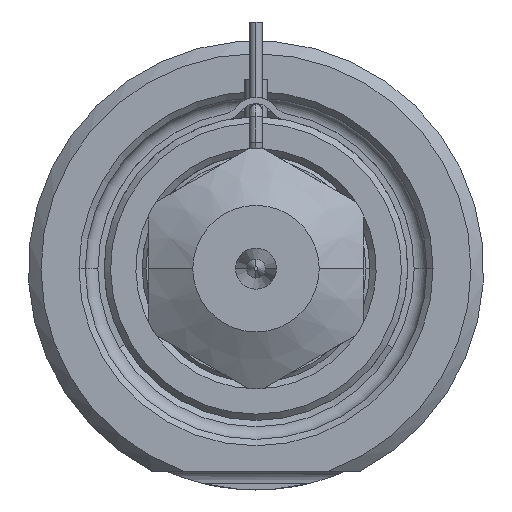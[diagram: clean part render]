
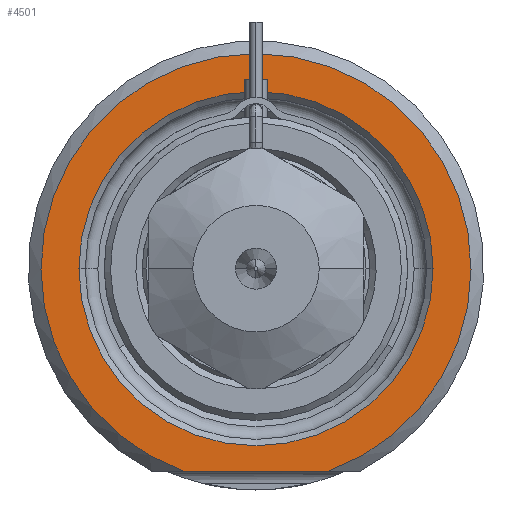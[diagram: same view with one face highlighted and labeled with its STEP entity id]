
A CAD part, front view. The second image highlights one B-rep face of the part: STEP entity #4501.
In plain terms, the highlighted planar face has unit normal (0, -1, 0).
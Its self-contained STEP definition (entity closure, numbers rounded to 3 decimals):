
#746=CARTESIAN_POINT('',(0.,0.,0.));
#747=DIRECTION('',(0.,-1.,0.));
#748=DIRECTION('',(0.338,0.,-0.941));
#749=AXIS2_PLACEMENT_3D('',#746,#747,#748);
#770=DIRECTION('',(1.,0.,0.));
#771=VECTOR('',#770,11.489);
#772=CARTESIAN_POINT('',(-5.745,0.,-16.));
#773=LINE('',#772,#771);
#774=CARTESIAN_POINT('',(0.,0.,0.));
#775=DIRECTION('',(0.,1.,0.));
#776=DIRECTION('',(-1.,0.,0.));
#777=AXIS2_PLACEMENT_3D('',#774,#775,#776);
#779=CARTESIAN_POINT('',(0.,0.,0.));
#780=DIRECTION('',(0.,1.,0.));
#781=DIRECTION('',(1.,0.,0.));
#782=AXIS2_PLACEMENT_3D('',#779,#780,#781);
#3062=CARTESIAN_POINT('',(-14.,0.,0.));
#3063=CARTESIAN_POINT('',(14.,0.,0.));
#3064=VERTEX_POINT('',#3062);
#3065=VERTEX_POINT('',#3063);
#3112=CARTESIAN_POINT('',(-5.745,0.,-16.));
#3113=CARTESIAN_POINT('',(5.745,0.,-16.));
#3114=VERTEX_POINT('',#3112);
#3115=VERTEX_POINT('',#3113);
#4486=CARTESIAN_POINT('',(0.,0.,0.));
#4487=DIRECTION('',(0.,-1.,0.));
#4488=DIRECTION('',(1.,0.,0.));
#4489=AXIS2_PLACEMENT_3D('',#4486,#4487,#4488);
#4490=PLANE('',#4489);
#4491=ORIENTED_EDGE('',*,*,#4418,.F.);
#4492=ORIENTED_EDGE('',*,*,#4478,.F.);
#4493=EDGE_LOOP('',(#4491,#4492));
#4494=FACE_OUTER_BOUND('',#4493,.F.);
#4496=ORIENTED_EDGE('',*,*,#4495,.F.);
#4498=ORIENTED_EDGE('',*,*,#4497,.F.);
#4499=EDGE_LOOP('',(#4496,#4498));
#4500=FACE_BOUND('',#4499,.F.);
#4501=ADVANCED_FACE('',(#4494,#4500),#4490,.T.);
#750=CIRCLE('',#749,17.);
#778=CIRCLE('',#777,14.);
#783=CIRCLE('',#782,14.);
#4418=EDGE_CURVE('',#3114,#3115,#773,.T.);
#4478=EDGE_CURVE('',#3115,#3114,#750,.T.);
#4495=EDGE_CURVE('',#3064,#3065,#778,.T.);
#4497=EDGE_CURVE('',#3065,#3064,#783,.T.);
